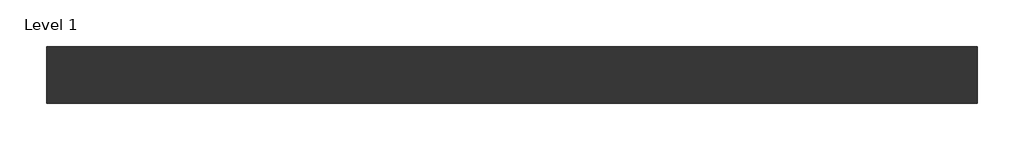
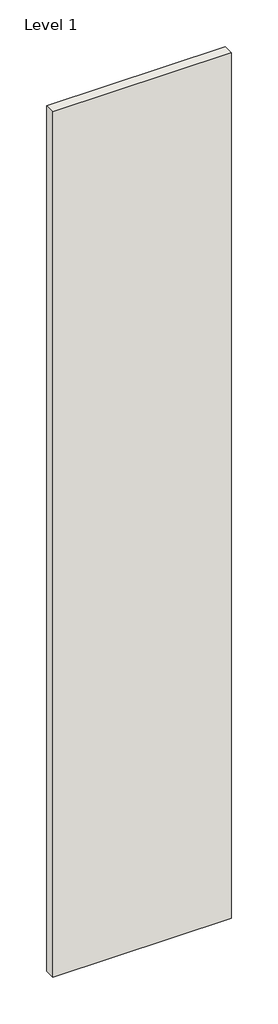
# One storey: 1 wall.
"""IFC4 building model written with IfcOpenShell, lengths in millimetres."""

from ifc_helpers import new_model, si_unit, origin, origin_with_axes, place, context, project, spatial, polyline, outline, extrude, element, save

model = new_model("IFC4")

# Units and contexts
model_context = context("Model", 3, world=origin())
ifc_project = project(units=[si_unit("LENGTHUNIT", "METRE", prefix="MILLI")], contexts=[model_context])

# Site, building, storey
site = spatial("IfcSite", under=ifc_project)
building = spatial("IfcBuilding", under=site)
storey = spatial("IfcBuildingStorey", under=building, Name="Level 1", Elevation=0.0)

# Wall
placement = place(None, origin())
element("IfcWall", 1, ObjectType="Trasdosado Placo® 73(48) 2xBA13 + 48LM c/600", at=placement, inside=storey, context=model_context, shape_type="SweptSolid", body=[
    extrude(outline(polyline([(-28676.4711674, -83211.8970389), (-29876.4711674, -83211.8970389), (-29876.4711674, -83138.8970389), (-28676.4711674, -83138.8970389), (-28676.4711674, -83211.8970389)])), origin_with_axes(), (0.0, 0.0, 1.0), 6150.0),
])

save(model, "model.ifc")
